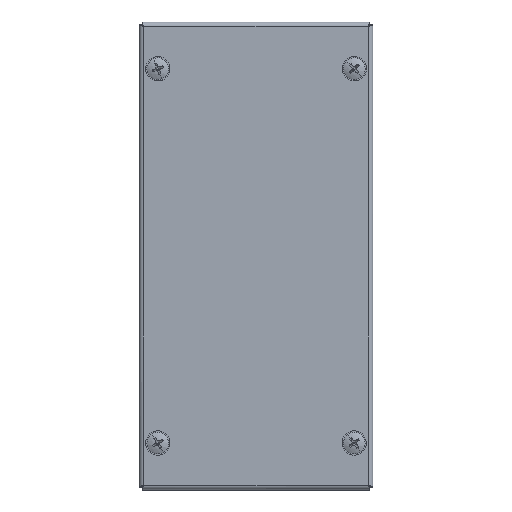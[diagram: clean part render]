
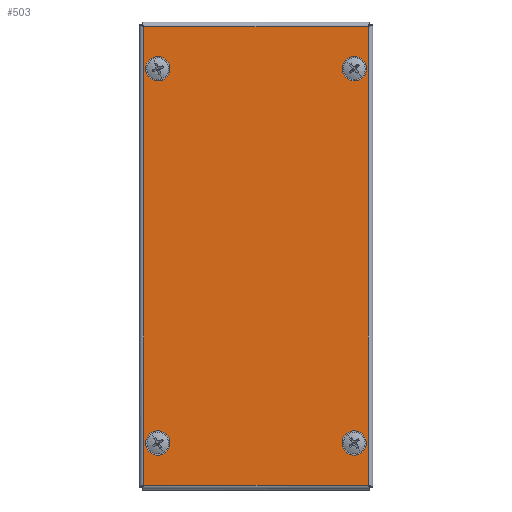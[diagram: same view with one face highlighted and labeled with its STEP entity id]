
A CAD part, top view. The second image highlights one B-rep face of the part: STEP entity #503.
In plain terms, the highlighted planar face has unit normal (0, 0, 1) as drawn and (0, 0, -1) by its records, which use the part's own axes.
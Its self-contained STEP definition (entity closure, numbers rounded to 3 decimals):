
#277 = ORIENTED_EDGE ( 'NONE', *, *, #14358, .T. ) ;
#399 = CARTESIAN_POINT ( 'NONE',  ( 84., 42., -1.2 ) ) ;
#503 = ADVANCED_FACE ( 'NONE', ( #5768, #7040, #4857, #1760, #13799 ), #1085, .F. ) ;
#626 = ORIENTED_EDGE ( 'NONE', *, *, #11169, .T. ) ;
#806 = VERTEX_POINT ( 'NONE', #11459 ) ;
#996 = DIRECTION ( 'NONE',  ( 0., 0., 1. ) ) ;
#1041 = EDGE_LOOP ( 'NONE', ( #12189, #626 ) ) ;
#1085 = PLANE ( 'NONE',  #10495 ) ;
#1104 = DIRECTION ( 'NONE',  ( 0., -1., 0. ) ) ;
#1210 = EDGE_CURVE ( 'NONE', #13555, #7168, #3906, .T. ) ;
#1760 = FACE_BOUND ( 'NONE', #1041, .T. ) ;
#2143 = CARTESIAN_POINT ( 'NONE',  ( 80., -42., -1.2 ) ) ;
#2427 = ORIENTED_EDGE ( 'NONE', *, *, #11101, .T. ) ;
#2476 = CARTESIAN_POINT ( 'NONE',  ( -76., -42., -1.2 ) ) ;
#2609 = VECTOR ( 'NONE', #1104, 1000. ) ;
#2838 = CARTESIAN_POINT ( 'NONE',  ( 80., 42., -1.2 ) ) ;
#2854 = ORIENTED_EDGE ( 'NONE', *, *, #4718, .T. ) ;
#2912 = LINE ( 'NONE', #8752, #14994 ) ;
#3084 = ORIENTED_EDGE ( 'NONE', *, *, #7618, .T. ) ;
#3118 = EDGE_LOOP ( 'NONE', ( #277, #12136 ) ) ;
#3350 = DIRECTION ( 'NONE',  ( 0., 1., 0. ) ) ;
#3570 = ORIENTED_EDGE ( 'NONE', *, *, #12911, .T. ) ;
#3628 = DIRECTION ( 'NONE',  ( 1., 0., 0. ) ) ;
#3679 = CIRCLE ( 'NONE', #8078, 4. ) ;
#3831 = DIRECTION ( 'NONE',  ( 1., 0., 0. ) ) ;
#3842 = CARTESIAN_POINT ( 'NONE',  ( -98.063, 48.063, -1.2 ) ) ;
#3906 = CIRCLE ( 'NONE', #5234, 4. ) ;
#4426 = CIRCLE ( 'NONE', #4500, 4. ) ;
#4500 = AXIS2_PLACEMENT_3D ( 'NONE', #2838, #6582, #11081 ) ;
#4718 = EDGE_CURVE ( 'NONE', #12931, #13985, #8932, .T. ) ;
#4857 = FACE_BOUND ( 'NONE', #5182, .T. ) ;
#4862 = VERTEX_POINT ( 'NONE', #399 ) ;
#4979 = CARTESIAN_POINT ( 'NONE',  ( -80., -42., -1.2 ) ) ;
#5182 = EDGE_LOOP ( 'NONE', ( #3084, #2427 ) ) ;
#5234 = AXIS2_PLACEMENT_3D ( 'NONE', #8135, #7944, #13796 ) ;
#5283 = CARTESIAN_POINT ( 'NONE',  ( -98.063, -48.063, -1.2 ) ) ;
#5465 = CIRCLE ( 'NONE', #5891, 4. ) ;
#5529 = DIRECTION ( 'NONE',  ( 1., 0., 0. ) ) ;
#5655 = DIRECTION ( 'NONE',  ( 1., 0., 0. ) ) ;
#5768 = FACE_BOUND ( 'NONE', #3118, .T. ) ;
#5885 = EDGE_CURVE ( 'NONE', #11621, #14340, #7521, .T. ) ;
#5891 = AXIS2_PLACEMENT_3D ( 'NONE', #6128, #13092, #13193 ) ;
#6078 = CIRCLE ( 'NONE', #10727, 4. ) ;
#6128 = CARTESIAN_POINT ( 'NONE',  ( -80., 42., -1.2 ) ) ;
#6382 = EDGE_CURVE ( 'NONE', #6829, #12931, #6848, .T. ) ;
#6582 = DIRECTION ( 'NONE',  ( 0., 0., 1. ) ) ;
#6659 = CARTESIAN_POINT ( 'NONE',  ( -84., -42., -1.2 ) ) ;
#6829 = VERTEX_POINT ( 'NONE', #5283 ) ;
#6848 = LINE ( 'NONE', #7923, #9556 ) ;
#6884 = ORIENTED_EDGE ( 'NONE', *, *, #8789, .T. ) ;
#7040 = FACE_BOUND ( 'NONE', #9513, .T. ) ;
#7050 = VERTEX_POINT ( 'NONE', #12726 ) ;
#7123 = CARTESIAN_POINT ( 'NONE',  ( -80., -42., -1.2 ) ) ;
#7168 = VERTEX_POINT ( 'NONE', #11843 ) ;
#7201 = CIRCLE ( 'NONE', #14611, 4. ) ;
#7251 = CARTESIAN_POINT ( 'NONE',  ( 98.063, -48.063, -1.2 ) ) ;
#7434 = CARTESIAN_POINT ( 'NONE',  ( -76., 42., -1.2 ) ) ;
#7521 = CIRCLE ( 'NONE', #8450, 4. ) ;
#7618 = EDGE_CURVE ( 'NONE', #4862, #7050, #7201, .T. ) ;
#7923 = CARTESIAN_POINT ( 'NONE',  ( -98.063, -48.093, -1.2 ) ) ;
#7944 = DIRECTION ( 'NONE',  ( 0., 0., 1. ) ) ;
#8039 = AXIS2_PLACEMENT_3D ( 'NONE', #7123, #8306, #3628 ) ;
#8078 = AXIS2_PLACEMENT_3D ( 'NONE', #2143, #10334, #5655 ) ;
#8108 = CARTESIAN_POINT ( 'NONE',  ( 0., 0., -1.2 ) ) ;
#8135 = CARTESIAN_POINT ( 'NONE',  ( 80., -42., -1.2 ) ) ;
#8252 = DIRECTION ( 'NONE',  ( 1., 0., 0. ) ) ;
#8306 = DIRECTION ( 'NONE',  ( 0., 0., 1. ) ) ;
#8345 = VERTEX_POINT ( 'NONE', #7251 ) ;
#8450 = AXIS2_PLACEMENT_3D ( 'NONE', #4979, #10806, #3831 ) ;
#8546 = DIRECTION ( 'NONE',  ( -1., 0., 0. ) ) ;
#8752 = CARTESIAN_POINT ( 'NONE',  ( 98.093, -48.063, -1.2 ) ) ;
#8789 = EDGE_CURVE ( 'NONE', #7168, #13555, #3679, .T. ) ;
#8932 = LINE ( 'NONE', #10221, #14406 ) ;
#9003 = DIRECTION ( 'NONE',  ( 0., 0., 1. ) ) ;
#9230 = DIRECTION ( 'NONE',  ( 1., 0., 0. ) ) ;
#9513 = EDGE_LOOP ( 'NONE', ( #6884, #13134 ) ) ;
#9556 = VECTOR ( 'NONE', #3350, 1000. ) ;
#9998 = CIRCLE ( 'NONE', #8039, 4. ) ;
#10135 = CARTESIAN_POINT ( 'NONE',  ( 76., -42., -1.2 ) ) ;
#10221 = CARTESIAN_POINT ( 'NONE',  ( -98.093, 48.063, -1.2 ) ) ;
#10334 = DIRECTION ( 'NONE',  ( 0., 0., 1. ) ) ;
#10495 = AXIS2_PLACEMENT_3D ( 'NONE', #8108, #996, #9230 ) ;
#10727 = AXIS2_PLACEMENT_3D ( 'NONE', #14845, #14904, #11233 ) ;
#10769 = EDGE_LOOP ( 'NONE', ( #11695, #2854, #15091, #3570 ) ) ;
#10806 = DIRECTION ( 'NONE',  ( 0., 0., 1. ) ) ;
#10836 = EDGE_CURVE ( 'NONE', #13985, #8345, #14467, .T. ) ;
#11074 = CARTESIAN_POINT ( 'NONE',  ( 98.063, 48.063, -1.2 ) ) ;
#11081 = DIRECTION ( 'NONE',  ( 1., 0., 0. ) ) ;
#11101 = EDGE_CURVE ( 'NONE', #7050, #4862, #4426, .T. ) ;
#11169 = EDGE_CURVE ( 'NONE', #806, #14517, #6078, .T. ) ;
#11233 = DIRECTION ( 'NONE',  ( 1., 0., 0. ) ) ;
#11459 = CARTESIAN_POINT ( 'NONE',  ( -84., 42., -1.2 ) ) ;
#11621 = VERTEX_POINT ( 'NONE', #6659 ) ;
#11695 = ORIENTED_EDGE ( 'NONE', *, *, #6382, .T. ) ;
#11843 = CARTESIAN_POINT ( 'NONE',  ( 84., -42., -1.2 ) ) ;
#12136 = ORIENTED_EDGE ( 'NONE', *, *, #5885, .T. ) ;
#12189 = ORIENTED_EDGE ( 'NONE', *, *, #13793, .T. ) ;
#12519 = CARTESIAN_POINT ( 'NONE',  ( 80., 42., -1.2 ) ) ;
#12726 = CARTESIAN_POINT ( 'NONE',  ( 76., 42., -1.2 ) ) ;
#12911 = EDGE_CURVE ( 'NONE', #8345, #6829, #2912, .T. ) ;
#12931 = VERTEX_POINT ( 'NONE', #3842 ) ;
#13092 = DIRECTION ( 'NONE',  ( 0., 0., 1. ) ) ;
#13134 = ORIENTED_EDGE ( 'NONE', *, *, #1210, .T. ) ;
#13193 = DIRECTION ( 'NONE',  ( 1., 0., 0. ) ) ;
#13555 = VERTEX_POINT ( 'NONE', #10135 ) ;
#13793 = EDGE_CURVE ( 'NONE', #14517, #806, #5465, .T. ) ;
#13796 = DIRECTION ( 'NONE',  ( 1., 0., 0. ) ) ;
#13799 = FACE_OUTER_BOUND ( 'NONE', #10769, .T. ) ;
#13985 = VERTEX_POINT ( 'NONE', #11074 ) ;
#14340 = VERTEX_POINT ( 'NONE', #2476 ) ;
#14358 = EDGE_CURVE ( 'NONE', #14340, #11621, #9998, .T. ) ;
#14406 = VECTOR ( 'NONE', #8252, 1000. ) ;
#14467 = LINE ( 'NONE', #14973, #2609 ) ;
#14517 = VERTEX_POINT ( 'NONE', #7434 ) ;
#14611 = AXIS2_PLACEMENT_3D ( 'NONE', #12519, #9003, #5529 ) ;
#14845 = CARTESIAN_POINT ( 'NONE',  ( -80., 42., -1.2 ) ) ;
#14904 = DIRECTION ( 'NONE',  ( 0., 0., 1. ) ) ;
#14973 = CARTESIAN_POINT ( 'NONE',  ( 98.063, 48.093, -1.2 ) ) ;
#14994 = VECTOR ( 'NONE', #8546, 1000. ) ;
#15091 = ORIENTED_EDGE ( 'NONE', *, *, #10836, .T. ) ;
